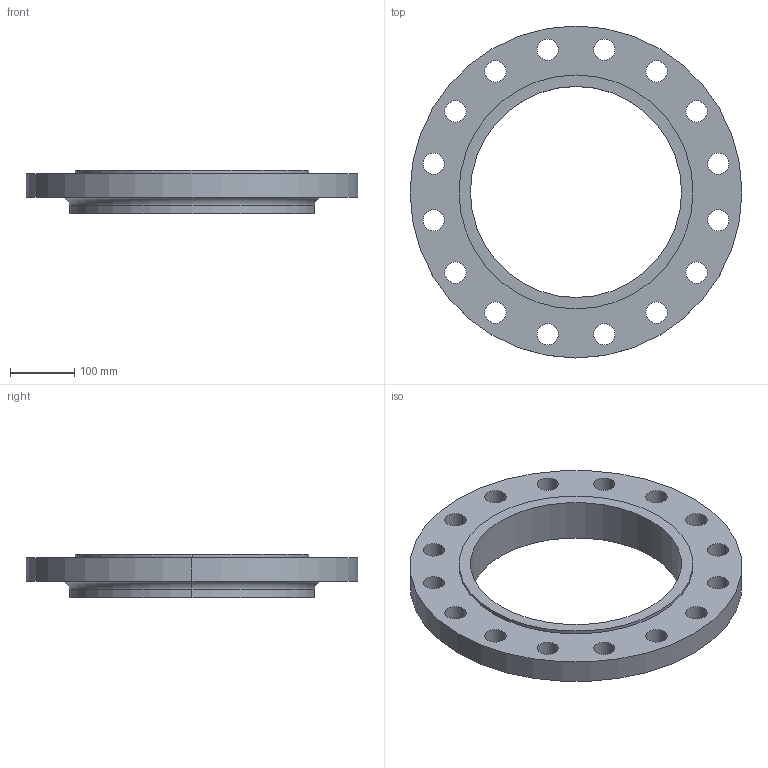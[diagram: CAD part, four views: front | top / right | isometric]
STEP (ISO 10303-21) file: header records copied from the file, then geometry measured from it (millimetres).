
FILE_DESCRIPTION (( 'STEP AP214' ), '1' );
FILE_NAME ('PN40 DN300 Type 12 - Type E Face.STEP', '2019-01-05T20:21:05', ( '' ), ( '' ), 'SwSTEP 2.0', 'SolidWorks 2019', '' );
FILE_SCHEMA (( 'AUTOMOTIVE_DESIGN' ));
Length unit declared in the file: millimetre
Products named in the file (1): PN40 DN300 Type 12 - Type E Face
Bounding box: 515 x 515 x 67 mm (x, y, z)
Volume: 4947182.2 mm3; surface area: 440401.3 mm2
Topology: 1 solids, 1 shells, 46 faces, 124 edges, 82 vertices
Faces by surface type: cylinder 40, plane 4, torus 2
Entity records: 1598 total; most frequent: DIRECTION 302, CARTESIAN_POINT 253, ORIENTED_EDGE 248, AXIS2_PLACEMENT_3D 131, EDGE_CURVE 124, CIRCLE 84, VERTEX_POINT 82, EDGE_LOOP 82
